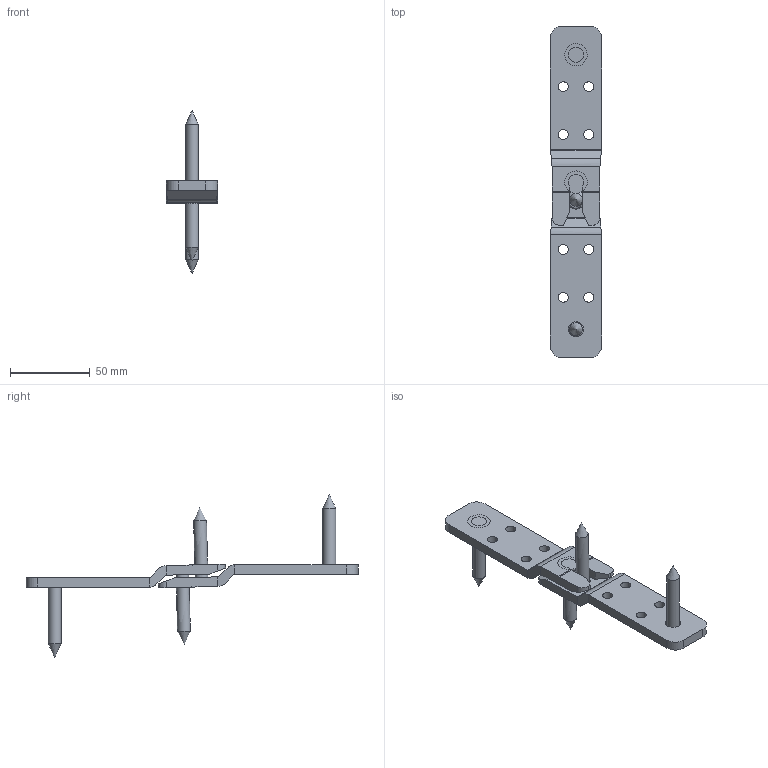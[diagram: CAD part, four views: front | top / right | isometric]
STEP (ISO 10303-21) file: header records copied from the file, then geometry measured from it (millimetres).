
FILE_DESCRIPTION(/* description */ ('Unknown'),/* implementation_level */ '2;1');
FILE_NAME(/* name */ 'WALCO Z32_4xSK8x50',/* time_stamp */ '2022-03-02T11:03:24+01:00',/* author */ ('Unknown'),/* organization */ ('Unknown'),/* preprocessor_version */ 'ST-DEVELOPER v16.7',/* originating_system */ 'Solid Edge',/* authorisation */ 'Unknown');
FILE_SCHEMA (('AUTOMOTIVE_DESIGN {1 0 10303 214 3 1 1}'));
Length unit declared in the file: millimetre
Products named in the file (4): Walco_32_Schrauben_2x; Walco_32_Schrauben; Walco_32_1; Z531_SK_Schraube_8x50_ohne CUT
Assembly tree (5 placements, depth 3):
  Walco_32_Schrauben_2x
    Walco_32_Schrauben  x2
      Walco_32_1
      Z531_SK_Schraube_8x50_ohne CUT
Bounding box: 32 x 208 x 102 mm (x, y, z)
Volume: 51142.3 mm3; surface area: 25012.2 mm2
Topology: 6 solids, 6 shells, 102 faces, 268 edges, 174 vertices
Faces by surface type: plane 58, cylinder 36, cone 8
Full cylindrical faces by diameter (mm): 6.2 x8, 8 x4, 9.5 x2, 14 x4
Entity records: 1485 total; most frequent: DIRECTION 246, CARTESIAN_POINT 239, ORIENTED_EDGE 220, EDGE_CURVE 110, AXIS2_PLACEMENT_3D 84, LINE 78, VECTOR 78, VERTEX_POINT 77
